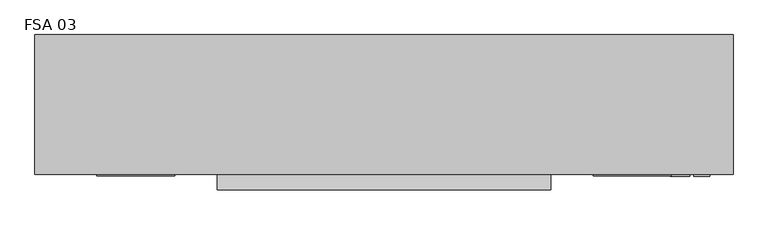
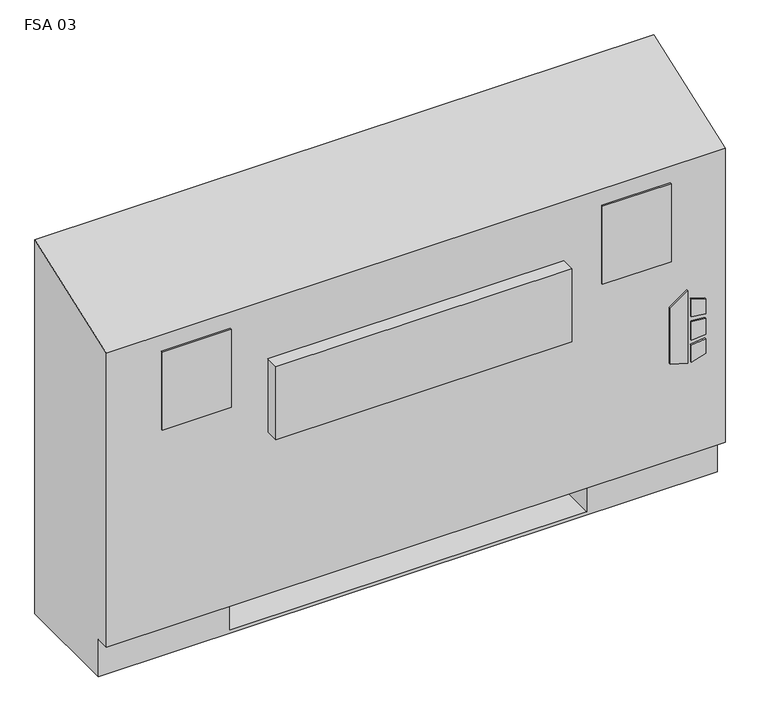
"""IFC4 building model written with IfcOpenShell, lengths in millimetres: proxy geometry, Vertical_Fan_Coil_Unit_-_FSA_-_IEC_-_4-Pipe_FS-FR_RH_2022 : FSA 03."""

from ifc_helpers import new_model, si_unit, point, frame, frame_2d, origin, place, context, project, spatial, polyline, circle_curve, trimmed, segment, composite_curve, outline, extrude, source, transform, mapped, element, save
from ifc_brep_helpers import plane_surface, revolved_surface, advanced_brep


def fsa_03_15f4ee76(model_context):
    return source(origin(), model_context, "Body", "SolidModel", [
        extrude(outline(polyline([(263.9480703, 620.7868862), (254.0, 652.9602728), (396.1709244, 652.9602728), (373.1489183, 620.7868862), (263.9480703, 620.7868862)])), frame((0.0, 12.7, 0.0), z_axis=(0.0, 1.0, 0.0), x_axis=(0.0, 0.0, 1.0)), (0.0, 0.0, 1.0), 3.175),
        extrude(outline(polyline([(342.9473557, 659.7186058), (339.7449632, 685.8), (368.9738042, 685.8), (377.0382193, 659.7186058), (342.9473557, 659.7186058)])), frame((0.0, 12.7, 0.0), z_axis=(0.0, 1.0, 0.0), x_axis=(0.0, 0.0, 1.0)), (0.0, 0.0, 1.0), 3.175),
        extrude(outline(polyline([(291.0838288, 685.8), (287.4183279, 659.7186058), (254.0, 659.7186058), (262.6342372, 685.8), (291.0838288, 685.8)])), frame((0.0, 12.7, 0.0), z_axis=(0.0, 1.0, 0.0), x_axis=(0.0, 0.0, 1.0)), (0.0, 0.0, 1.0), 3.175),
        extrude(outline(polyline([(330.3989903, 685.8), (332.6808166, 659.7186058), (296.7432681, 659.7186058), (299.4845331, 685.8), (330.3989903, 685.8)])), frame((0.0, 12.7, 0.0), z_axis=(0.0, 1.0, 0.0), x_axis=(0.0, 0.0, 1.0)), (0.0, 0.0, 1.0), 3.175),
        extrude(outline(polyline([(-298.45, 81.534), (-298.45, 223.266), (-177.8, 223.266), (-177.8, 81.534), (-298.45, 81.534)])), frame((0.0, 0.0, 327.025), z_axis=(0.0, 0.0, 1.0), x_axis=(1.0, 0.0, 0.0)), (0.0, 0.0, 1.0), 260.35),
        extrude(outline(polyline([(-190.5, 12.7), (-317.5, 12.7), (-317.5, 15.875), (-190.5, 15.875), (-190.5, 12.7)])), frame((0.0, 0.0, 463.55), z_axis=(0.0, 0.0, 1.0), x_axis=(1.0, 0.0, 0.0)), (0.0, 0.0, 1.0), 152.4),
        extrude(outline(polyline([(622.3, 12.7), (495.3, 12.7), (495.3, 15.875), (622.3, 15.875), (622.3, 12.7)])), frame((0.0, 0.0, 463.55), z_axis=(0.0, 0.0, 1.0), x_axis=(1.0, 0.0, 0.0)), (0.0, 0.0, 1.0), 152.4),
        extrude(outline(composite_curve([segment(trimmed(circle_curve(frame_2d((546.1, 130.175)), 9.525), [point((536.575, 130.175))], [point((555.625, 130.175))], False, "CARTESIAN"), True, "CONTINUOUS"), segment(trimmed(circle_curve(frame_2d((546.1, 130.175)), 9.525), [point((555.625, 130.175))], [point((536.575, 130.175))], False, "CARTESIAN"), True, "CONTINUOUS")], self_intersect=False)), frame((0.0, 0.0, 101.6), z_axis=(0.0, 0.0, 1.0), x_axis=(1.0, 0.0, 0.0)), (0.0, 0.0, 1.0), 25.4),
        extrude(outline(polyline([(647.7, 196.85), (647.7, 63.5), (482.6, 63.5), (482.6, 196.85), (647.7, 196.85)])), frame((0.0, 0.0, 127.0), z_axis=(0.0, 0.0, 1.0), x_axis=(1.0, 0.0, 0.0)), (0.0, 0.0, 1.0), 50.8),
        extrude(outline(polyline([(425.45, -9.525), (-120.65, -9.525), (-120.65, 15.875), (425.45, 15.875), (425.45, -9.525)])), frame((0.0, 0.0, 389.3009245), z_axis=(0.0, 0.0, 1.0), x_axis=(1.0, 0.0, 0.0)), (0.0, 0.0, 1.0), 142.875),
        extrude(outline(composite_curve([segment(trimmed(circle_curve(frame_2d((117.475, 472.44)), 7.9375), [point((117.475, 480.3775))], [point((117.475, 464.5025))], False, "CARTESIAN"), True, "CONTINUOUS"), segment(trimmed(circle_curve(frame_2d((117.475, 472.44)), 7.9375), [point((117.475, 464.5025))], [point((117.475, 480.3775))], False, "CARTESIAN"), True, "CONTINUOUS")], self_intersect=False)), frame((482.6, 0.0, 0.0), z_axis=(1.0, 0.0, 0.0), x_axis=(0.0, 1.0, 0.0)), (0.0, 0.0, 1.0), 50.8),
        extrude(outline(composite_curve([segment(trimmed(circle_curve(frame_2d((164.0586, 445.897)), 7.9375), [point((164.0586, 453.8345))], [point((164.0586, 437.9595))], False, "CARTESIAN"), True, "CONTINUOUS"), segment(trimmed(circle_curve(frame_2d((164.0586, 445.897)), 7.9375), [point((164.0586, 437.9595))], [point((164.0586, 453.8345))], False, "CARTESIAN"), True, "CONTINUOUS")], self_intersect=False)), frame((482.6, 0.0, 0.0), z_axis=(1.0, 0.0, 0.0), x_axis=(0.0, 1.0, 0.0)), (0.0, 0.0, 1.0), 50.8),
        extrude(outline(composite_curve([segment(trimmed(circle_curve(frame_2d((53.975, 416.56)), 7.9502), [point((53.975, 424.5102))], [point((53.975, 408.6098))], False, "CARTESIAN"), True, "CONTINUOUS"), segment(trimmed(circle_curve(frame_2d((53.975, 416.56)), 7.9502), [point((53.975, 408.6098))], [point((53.975, 424.5102))], False, "CARTESIAN"), True, "CONTINUOUS")], self_intersect=False)), frame((482.6, 0.0, 0.0), z_axis=(1.0, 0.0, 0.0), x_axis=(0.0, 1.0, 0.0)), (0.0, 0.0, 1.0), 50.8),
        extrude(outline(composite_curve([segment(trimmed(circle_curve(frame_2d((130.175, 554.99)), 7.9502), [point((130.175, 562.9402))], [point((130.175, 547.0398))], False, "CARTESIAN"), True, "CONTINUOUS"), segment(trimmed(circle_curve(frame_2d((130.175, 554.99)), 7.9502), [point((130.175, 547.0398))], [point((130.175, 562.9402))], False, "CARTESIAN"), True, "CONTINUOUS")], self_intersect=False)), frame((482.6, 0.0, 0.0), z_axis=(1.0, 0.0, 0.0), x_axis=(0.0, 1.0, 0.0)), (0.0, 0.0, 1.0), 50.8),
        advanced_brep(
        [(-419.1, 244.475, 0.0), (723.9, 244.475, 0.0), (723.9, 41.275, 0.0), (-419.1, 41.275, 0.0), (-419.1, 244.475, 730.25), (723.9, 244.475, 730.25), (482.6, 244.475, 73.025), (711.2, 244.475, 73.025), (711.2, 244.475, 654.05), (482.6, 244.475, 654.05), (482.6, 244.475, 414.8650565), (511.175, 244.475, 414.8650565), (511.175, 244.475, 385.2349435), (482.6, 244.475, 385.2349435), (482.6, 244.475, 287.3375), (511.175, 244.475, 287.3375), (511.175, 244.475, 258.7625), (482.6, 244.475, 258.7625), (482.6, 244.475, 141.2875), (511.175, 244.475, 141.2875), (511.175, 244.475, 112.7125), (482.6, 244.475, 112.7125), (-177.8, 244.475, 654.05), (-406.4, 244.475, 654.05), (-406.4, 244.475, 73.025), (-177.8, 244.475, 73.025), (-177.8, 244.475, 112.7125), (-206.375, 244.475, 112.7125), (-206.375, 244.475, 141.2875), (-177.8, 244.475, 141.2875), (-177.8, 244.475, 258.7625), (-206.375, 244.475, 258.7625), (-206.375, 244.475, 287.3375), (-177.8, 244.475, 287.3375), (-177.8, 244.475, 385.2349435), (-206.375, 244.475, 385.2349435), (-206.375, 244.475, 414.8650565), (-177.8, 244.475, 414.8650565), (500.8626, 244.475, 127.0), (489.7374, 244.475, 127.0), (500.8626, 244.475, 400.05), (489.7374, 244.475, 400.05), (500.8626, 244.475, 273.05), (489.7374, 244.475, 273.05), (-184.9374, 244.475, 127.0), (-196.0626, 244.475, 127.0), (-184.9374, 244.475, 273.05), (-196.0626, 244.475, 273.05), (-184.9374, 244.475, 400.05), (-196.0626, 244.475, 400.05), (-419.1, 41.275, 73.025), (-419.1, 15.875, 73.025), (-419.1, 15.875, 647.7), (723.9, 15.875, 73.025), (723.9, 15.875, 647.7), (723.9, 41.275, 73.025), (-177.8, 41.275, 73.025), (-177.8, 225.425, 73.025), (482.6, 225.425, 73.025), (482.6, 41.275, 73.025), (482.6, 41.275, 6.35), (-177.8, 41.275, 6.35), (482.6, 41.275, 654.05), (711.2, 41.275, 654.05), (711.2, 41.275, 73.025), (482.6, 41.275, 73.025), (-177.8, 41.275, 654.05), (-177.8, 41.275, 73.025), (-406.4, 41.275, 73.025), (-406.4, 41.275, 654.05), (482.6, 225.425, 73.025), (482.6, 238.125, 112.7125), (482.6, 238.125, 141.2875), (482.6, 238.125, 258.7625), (482.6, 238.125, 287.3375), (482.6, 238.125, 385.2349435), (482.6, 238.125, 414.8650565), (-177.8, 225.425, 73.025), (-177.8, 238.125, 414.8650565), (-177.8, 238.125, 385.2349435), (-177.8, 238.125, 287.3375), (-177.8, 238.125, 258.7625), (-177.8, 238.125, 141.2875), (-177.8, 238.125, 112.7125), (-177.8, 225.425, 6.35), (482.6, 225.425, 6.35), (511.175, 238.125, 112.7125), (511.175, 238.125, 141.2875), (489.7374, 238.125, 127.0), (500.8626, 238.125, 127.0), (511.175, 238.125, 258.7625), (511.175, 238.125, 287.3375), (489.7374, 238.125, 273.05), (500.8626, 238.125, 273.05), (511.175, 238.125, 385.2349435), (511.175, 238.125, 414.8650565), (489.7374, 238.125, 400.05), (500.8626, 238.125, 400.05), (-206.375, 238.125, 141.2875), (-206.375, 238.125, 112.7125), (-196.0626, 238.125, 127.0), (-184.9374, 238.125, 127.0), (-206.375, 238.125, 287.3375), (-206.375, 238.125, 258.7625), (-196.0626, 238.125, 273.05), (-184.9374, 238.125, 273.05), (-206.375, 238.125, 414.8650565), (-206.375, 238.125, 385.2349435), (-196.0626, 238.125, 400.05), (-184.9374, 238.125, 400.05)],
        [
            (0, 1),
            (1, 2),
            (2, 3),
            (3, 0),
            (0, 4),
            (4, 5),
            (5, 1),
            (6, 7),
            (7, 8),
            (8, 9),
            (9, 10),
            (10, 11),
            (11, 12),
            (12, 13),
            (13, 14),
            (14, 15),
            (15, 16),
            (16, 17),
            (17, 18),
            (18, 19),
            (19, 20),
            (20, 21),
            (21, 6),
            (22, 23),
            (23, 24),
            (24, 25),
            (25, 26),
            (26, 27),
            (27, 28),
            (28, 29),
            (29, 30),
            (30, 31),
            (31, 32),
            (32, 33),
            (33, 34),
            (34, 35),
            (35, 36),
            (36, 37),
            (37, 22),
            (38, 39, circle_curve(frame((495.3, 244.475, 127.0), z_axis=(0.0, -1.0, 0.0), x_axis=(-1.0, 0.0, 0.0)), 5.5626)),
            (39, 38, circle_curve(frame((495.3, 244.475, 127.0), z_axis=(0.0, -1.0, 0.0), x_axis=(-1.0, 0.0, 0.0)), 5.5626)),
            (40, 41, circle_curve(frame((495.3, 244.475, 400.05), z_axis=(0.0, -1.0, 0.0), x_axis=(-1.0, 0.0, 0.0)), 5.5626)),
            (41, 40, circle_curve(frame((495.3, 244.475, 400.05), z_axis=(0.0, -1.0, 0.0), x_axis=(-1.0, 0.0, 0.0)), 5.5626)),
            (42, 43, circle_curve(frame((495.3, 244.475, 273.05), z_axis=(0.0, -1.0, 0.0), x_axis=(-1.0, 0.0, 0.0)), 5.5626)),
            (43, 42, circle_curve(frame((495.3, 244.475, 273.05), z_axis=(0.0, -1.0, 0.0), x_axis=(-1.0, 0.0, 0.0)), 5.5626)),
            (44, 45, circle_curve(frame((-190.5, 244.475, 127.0), z_axis=(0.0, -1.0, 0.0), x_axis=(-1.0, 0.0, 0.0)), 5.5626)),
            (45, 44, circle_curve(frame((-190.5, 244.475, 127.0), z_axis=(0.0, -1.0, 0.0), x_axis=(-1.0, 0.0, 0.0)), 5.5626)),
            (46, 47, circle_curve(frame((-190.5, 244.475, 273.05), z_axis=(0.0, -1.0, 0.0), x_axis=(-1.0, 0.0, 0.0)), 5.5626)),
            (47, 46, circle_curve(frame((-190.5, 244.475, 273.05), z_axis=(0.0, -1.0, 0.0), x_axis=(-1.0, 0.0, 0.0)), 5.5626)),
            (48, 49, circle_curve(frame((-190.5, 244.475, 400.05), z_axis=(0.0, -1.0, 0.0), x_axis=(-1.0, 0.0, 0.0)), 5.5626)),
            (49, 48, circle_curve(frame((-190.5, 244.475, 400.05), z_axis=(0.0, -1.0, 0.0), x_axis=(-1.0, 0.0, 0.0)), 5.5626)),
            (3, 50),
            (50, 51),
            (51, 52),
            (52, 4),
            (51, 53),
            (53, 54),
            (54, 52),
            (5, 54),
            (53, 55),
            (55, 2),
            (50, 56),
            (56, 57),
            (57, 58),
            (58, 59),
            (59, 55),
            (59, 60),
            (60, 61),
            (61, 56),
            (62, 63),
            (63, 64),
            (64, 65),
            (65, 62),
            (66, 67),
            (67, 68),
            (68, 69),
            (69, 66),
            (65, 70),
            (70, 6),
            (21, 71),
            (71, 72),
            (72, 18),
            (17, 73),
            (73, 74),
            (74, 14),
            (13, 75),
            (75, 76),
            (76, 10),
            (9, 62),
            (64, 7),
            (63, 8),
            (69, 23),
            (22, 66),
            (68, 24),
            (67, 77),
            (77, 25),
            (37, 78),
            (78, 79),
            (79, 34),
            (33, 80),
            (80, 81),
            (81, 30),
            (29, 82),
            (82, 83),
            (83, 26),
            (57, 84),
            (84, 85),
            (85, 58),
            (85, 60),
            (84, 61),
            (71, 86),
            (86, 87),
            (87, 72),
            (88, 89, circle_curve(frame((495.3, 238.125, 127.0), z_axis=(0.0, 1.0, 0.0), x_axis=(-1.0, 0.0, 0.0)), 5.5626)),
            (89, 88, circle_curve(frame((495.3, 238.125, 127.0), z_axis=(0.0, 1.0, 0.0), x_axis=(-1.0, 0.0, 0.0)), 5.5626)),
            (73, 90),
            (90, 91),
            (91, 74),
            (92, 93, circle_curve(frame((495.3, 238.125, 273.05), z_axis=(0.0, 1.0, 0.0), x_axis=(-1.0, 0.0, 0.0)), 5.5626)),
            (93, 92, circle_curve(frame((495.3, 238.125, 273.05), z_axis=(0.0, 1.0, 0.0), x_axis=(-1.0, 0.0, 0.0)), 5.5626)),
            (75, 94),
            (94, 95),
            (95, 76),
            (96, 97, circle_curve(frame((495.3, 238.125, 400.05), z_axis=(0.0, 1.0, 0.0), x_axis=(-1.0, 0.0, 0.0)), 5.5626)),
            (97, 96, circle_curve(frame((495.3, 238.125, 400.05), z_axis=(0.0, 1.0, 0.0), x_axis=(-1.0, 0.0, 0.0)), 5.5626)),
            (98, 99),
            (99, 83),
            (82, 98),
            (100, 101, circle_curve(frame((-190.5, 238.125, 127.0), z_axis=(0.0, 1.0, 0.0), x_axis=(-1.0, 0.0, 0.0)), 5.5626)),
            (101, 100, circle_curve(frame((-190.5, 238.125, 127.0), z_axis=(0.0, 1.0, 0.0), x_axis=(-1.0, 0.0, 0.0)), 5.5626)),
            (102, 103),
            (103, 81),
            (80, 102),
            (104, 105, circle_curve(frame((-190.5, 238.125, 273.05), z_axis=(0.0, 1.0, 0.0), x_axis=(-1.0, 0.0, 0.0)), 5.5626)),
            (105, 104, circle_curve(frame((-190.5, 238.125, 273.05), z_axis=(0.0, 1.0, 0.0), x_axis=(-1.0, 0.0, 0.0)), 5.5626)),
            (106, 107),
            (107, 79),
            (78, 106),
            (108, 109, circle_curve(frame((-190.5, 238.125, 400.05), z_axis=(0.0, 1.0, 0.0), x_axis=(-1.0, 0.0, 0.0)), 5.5626)),
            (109, 108, circle_curve(frame((-190.5, 238.125, 400.05), z_axis=(0.0, 1.0, 0.0), x_axis=(-1.0, 0.0, 0.0)), 5.5626)),
            (87, 19),
            (86, 20),
            (91, 15),
            (90, 16),
            (95, 11),
            (94, 12),
            (28, 98),
            (99, 27),
            (32, 102),
            (103, 31),
            (36, 106),
            (107, 35),
            (88, 39),
            (38, 89),
            (96, 41),
            (40, 97),
            (92, 43),
            (42, 93),
            (100, 45),
            (44, 101),
            (104, 47),
            (46, 105),
            (108, 49),
            (48, 109),
        ],
        [
            plane_surface(frame((-419.1, 244.475, 0.0), z_axis=(0.0, 0.0, -1.0), x_axis=(1.0, 0.0, 0.0))),
            plane_surface(frame((723.9, 244.475, 730.25), z_axis=(0.0, 1.0, 0.0), x_axis=(0.0, 0.0, -1.0))),
            plane_surface(frame((-419.1, 244.475, 730.25), z_axis=(-1.0, 0.0, 0.0), x_axis=(0.0, 0.0, -1.0))),
            plane_surface(frame((-419.1, 15.875, 730.25), z_axis=(0.0, -1.0, 0.0), x_axis=(0.0, 0.0, -1.0))),
            plane_surface(frame((723.9, 15.875, 730.25), z_axis=(1.0, 0.0, 0.0), x_axis=(0.0, 0.0, -1.0))),
            plane_surface(frame((-419.1, 15.875, 73.025), z_axis=(0.0, 0.0, -1.0), x_axis=(1.0, 0.0, 0.0))),
            plane_surface(frame((-419.1, 41.275, 73.025), z_axis=(0.0, -1.0, 0.0), x_axis=(1.0, 0.0, 0.0))),
            plane_surface(frame((482.6, 41.275, 654.05), z_axis=(0.0, 1.0, 0.0), x_axis=(0.0, 0.0, -1.0))),
            plane_surface(frame((482.6, 41.275, 654.05), z_axis=(1.0, 0.0, 0.0), x_axis=(0.0, 1.0, 0.0))),
            plane_surface(frame((482.6, 41.275, 73.025), z_axis=(0.0, 0.0, 1.0), x_axis=(0.0, 1.0, 0.0))),
            plane_surface(frame((711.2, 41.275, 73.025), z_axis=(-1.0, 0.0, 0.0), x_axis=(0.0, 1.0, 0.0))),
            plane_surface(frame((711.2, 41.275, 654.05), z_axis=(0.0, 0.0, -1.0), x_axis=(0.0, 1.0, 0.0))),
            plane_surface(frame((-177.8, 41.275, 654.05), z_axis=(0.0, 0.0, -1.0), x_axis=(0.0, 1.0, 0.0))),
            plane_surface(frame((-406.4, 41.275, 654.05), z_axis=(1.0, 0.0, 0.0), x_axis=(0.0, 1.0, 0.0))),
            plane_surface(frame((-406.4, 41.275, 73.025), z_axis=(0.0, 0.0, 1.0), x_axis=(0.0, 1.0, 0.0))),
            plane_surface(frame((-177.8, 41.275, 73.025), z_axis=(-1.0, 0.0, 0.0), x_axis=(0.0, 1.0, 0.0))),
            plane_surface(frame((482.6, 225.425, 73.025), z_axis=(0.0, -1.0, 0.0), x_axis=(0.0, 0.0, -1.0))),
            plane_surface(frame((482.6, 225.425, 73.025), z_axis=(-1.0, 0.0, 0.0), x_axis=(0.0, -1.0, 0.0))),
            plane_surface(frame((482.6, 225.425, 6.35), z_axis=(0.0, 0.0, 1.0), x_axis=(0.0, -1.0, 0.0))),
            plane_surface(frame((-177.8, 225.425, 6.35), z_axis=(1.0, 0.0, 0.0), x_axis=(0.0, -1.0, 0.0))),
            plane_surface(frame((511.175, 238.125, 141.2875), z_axis=(0.0, -1.0, 0.0), x_axis=(-1.0, 0.0, 0.0))),
            plane_surface(frame((482.6, 244.475, 141.2875), z_axis=(0.0, 0.0, 1.0), x_axis=(0.0, -1.0, 0.0))),
            plane_surface(frame((511.175, 244.475, 141.2875), z_axis=(1.0, 0.0, 0.0), x_axis=(0.0, -1.0, 0.0))),
            plane_surface(frame((511.175, 244.475, 112.7125), z_axis=(0.0, 0.0, -1.0), x_axis=(0.0, -1.0, 0.0))),
            plane_surface(frame((482.6, 244.475, 287.3375), z_axis=(0.0, 0.0, 1.0), x_axis=(0.0, -1.0, 0.0))),
            plane_surface(frame((511.175, 244.475, 287.3375), z_axis=(1.0, 0.0, 0.0), x_axis=(0.0, -1.0, 0.0))),
            plane_surface(frame((511.175, 244.475, 258.7625), z_axis=(0.0, 0.0, -1.0), x_axis=(0.0, -1.0, 0.0))),
            plane_surface(frame((482.6, 244.475, 414.8650565), z_axis=(0.0, 0.0, 1.0), x_axis=(0.0, -1.0, 0.0))),
            plane_surface(frame((511.175, 244.475, 414.8650565), z_axis=(1.0, 0.0, 0.0), x_axis=(0.0, -1.0, 0.0))),
            plane_surface(frame((511.175, 244.475, 385.2349435), z_axis=(0.0, 0.0, -1.0), x_axis=(0.0, -1.0, 0.0))),
            plane_surface(frame((-206.375, 244.475, 141.2875), z_axis=(0.0, 0.0, 1.0), x_axis=(0.0, -1.0, 0.0))),
            plane_surface(frame((-177.8, 244.475, 112.7125), z_axis=(0.0, 0.0, -1.0), x_axis=(0.0, -1.0, 0.0))),
            plane_surface(frame((-206.375, 244.475, 112.7125), z_axis=(-1.0, 0.0, 0.0), x_axis=(0.0, -1.0, 0.0))),
            plane_surface(frame((-206.375, 244.475, 287.3375), z_axis=(0.0, 0.0, 1.0), x_axis=(0.0, -1.0, 0.0))),
            plane_surface(frame((-177.8, 244.475, 258.7625), z_axis=(0.0, 0.0, -1.0), x_axis=(0.0, -1.0, 0.0))),
            plane_surface(frame((-206.375, 244.475, 258.7625), z_axis=(-1.0, 0.0, 0.0), x_axis=(0.0, -1.0, 0.0))),
            plane_surface(frame((-206.375, 244.475, 414.8650565), z_axis=(0.0, 0.0, 1.0), x_axis=(0.0, -1.0, 0.0))),
            plane_surface(frame((-177.8, 244.475, 385.2349435), z_axis=(0.0, 0.0, -1.0), x_axis=(0.0, -1.0, 0.0))),
            plane_surface(frame((-206.375, 244.475, 385.2349435), z_axis=(-1.0, 0.0, 0.0), x_axis=(0.0, -1.0, 0.0))),
            revolved_surface(polyline([(489.73740000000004, 238.125, 127.0), (489.73740000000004, 244.475, 127.0)]), (495.3, 244.475, 127.0), (0.0, -1.0, 0.0)),
            revolved_surface(polyline([(489.73740000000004, 238.125, 400.05), (489.73740000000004, 244.475, 400.05)]), (495.3, 244.475, 400.05), (0.0, -1.0, 0.0)),
            revolved_surface(polyline([(489.73740000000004, 238.125, 273.05), (489.73740000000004, 244.475, 273.05)]), (495.3, 244.475, 273.05), (0.0, -1.0, 0.0)),
            revolved_surface(polyline([(-196.0626, 238.125, 127.0), (-196.0626, 244.475, 127.0)]), (-190.5, 244.475, 127.0), (0.0, -1.0, 0.0)),
            revolved_surface(polyline([(-196.0626, 238.125, 273.05), (-196.0626, 244.475, 273.05)]), (-190.5, 244.475, 273.05), (0.0, -1.0, 0.0)),
            revolved_surface(polyline([(-196.0626, 238.125, 400.05), (-196.0626, 244.475, 400.05)]), (-190.5, 244.475, 400.05), (0.0, -1.0, 0.0)),
            plane_surface(frame((-419.1, 244.475, 730.25), z_axis=(0.0, -0.33964446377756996, 0.9405538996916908), x_axis=(1.0, 0.0, 0.0))),
        ],
        [
            (0, [[1, 2, 3, 4]]),
            (1, [[-1, 5, 6, 7], [8, 9, 10, 11, 12, 13, 14, 15, 16, 17, 18, 19, 20, 21, 22, 23], [24, 25, 26, 27, 28, 29, 30, 31, 32, 33, 34, 35, 36, 37, 38, 39], [40, 41], [42, 43], [44, 45], [46, 47], [48, 49], [50, 51]]),
            (2, [[-5, -4, 52, 53, 54, 55]]),
            (3, [[56, 57, 58, -54]]),
            (4, [[-7, 59, -57, 60, 61, -2]]),
            (5, [[-53, 62, 63, 64, 65, 66, -60, -56]]),
            (6, [[-3, -61, -66, 67, 68, 69, -62, -52]]),
            (7, [[70, 71, 72, 73]]),
            (7, [[74, 75, 76, 77]]),
            (8, [[-73, 78, 79, -23, 80, 81, 82, -19, 83, 84, 85, -15, 86, 87, 88, -11, 89]]),
            (9, [[-72, 90, -8, -79, -78]]),
            (10, [[-71, 91, -9, -90]]),
            (11, [[-70, -89, -10, -91]]),
            (12, [[-77, 92, -24, 93]]),
            (13, [[-76, 94, -25, -92]]),
            (14, [[-75, 95, 96, -26, -94]]),
            (15, [[-74, -93, -39, 97, 98, 99, -35, 100, 101, 102, -31, 103, 104, 105, -27, -96, -95]]),
            (16, [[-64, 106, 107, 108]]),
            (17, [[-108, 109, -67, -65]]),
            (18, [[-107, 110, -68, -109]]),
            (19, [[-106, -63, -69, -110]]),
            (20, [[111, 112, 113, -81], [114, 115]]),
            (20, [[116, 117, 118, -84], [119, 120]]),
            (20, [[121, 122, 123, -87], [124, 125]]),
            (20, [[126, 127, -104, 128], [129, 130]]),
            (20, [[131, 132, -101, 133], [134, 135]]),
            (20, [[136, 137, -98, 138], [139, 140]]),
            (21, [[-113, 141, -20, -82]]),
            (22, [[-112, 142, -21, -141]]),
            (23, [[-111, -80, -22, -142]]),
            (24, [[-118, 143, -16, -85]]),
            (25, [[-117, 144, -17, -143]]),
            (26, [[-116, -83, -18, -144]]),
            (27, [[-123, 145, -12, -88]]),
            (28, [[-122, 146, -13, -145]]),
            (29, [[-121, -86, -14, -146]]),
            (30, [[-128, -103, -30, 147]]),
            (31, [[-127, 148, -28, -105]]),
            (32, [[-126, -147, -29, -148]]),
            (33, [[-133, -100, -34, 149]]),
            (34, [[-132, 150, -32, -102]]),
            (35, [[-131, -149, -33, -150]]),
            (36, [[-138, -97, -38, 151]]),
            (37, [[-137, 152, -36, -99]]),
            (38, [[-136, -151, -37, -152]]),
            (39, [[153, -40, 154, -114]]),
            (39, [[-153, -115, -154, -41]]),
            (40, [[155, -42, 156, -124]]),
            (40, [[-155, -125, -156, -43]]),
            (41, [[157, -44, 158, -119]]),
            (41, [[-157, -120, -158, -45]]),
            (42, [[159, -46, 160, -129]]),
            (42, [[-159, -130, -160, -47]]),
            (43, [[161, -48, 162, -134]]),
            (43, [[-161, -135, -162, -49]]),
            (44, [[163, -50, 164, -139]]),
            (44, [[-163, -140, -164, -51]]),
            (45, [[-6, -55, -58, -59]]),
        ],
    ),
    ])


if __name__ == "__main__":
    model = new_model("IFC4")
    model_context = context("Model", 3, world=origin())
    ifc_project = project(units=[si_unit("LENGTHUNIT", "METRE", prefix="MILLI")], contexts=[model_context])
    site = spatial("IfcSite", under=ifc_project)
    building = spatial("IfcBuilding", under=site)
    placement = place(None, origin())
    fsa_03_shape = fsa_03_15f4ee76(model_context)
    element("IfcBuildingElementProxy", 1, Name="Vertical_Fan_Coil_Unit_-_FSA_-_IEC_-_4-Pipe_FS-FR_RH_2022 : FSA 03", ObjectType="Vertical_Fan_Coil_Unit_-_FSA_-_IEC_-_4-Pipe_FS-FR_RH_2022 : FSA 03", at=placement, inside=building, context=model_context, shape_type="MappedRepresentation", body=[
        mapped(fsa_03_shape, transform((0.0, 0.0, 0.0), x_axis=(1.0, 0.0, 0.0), y_axis=(0.0, 1.0, 0.0), z_axis=(0.0, 0.0, 1.0))),
    ])
    save(model, "model.ifc")
